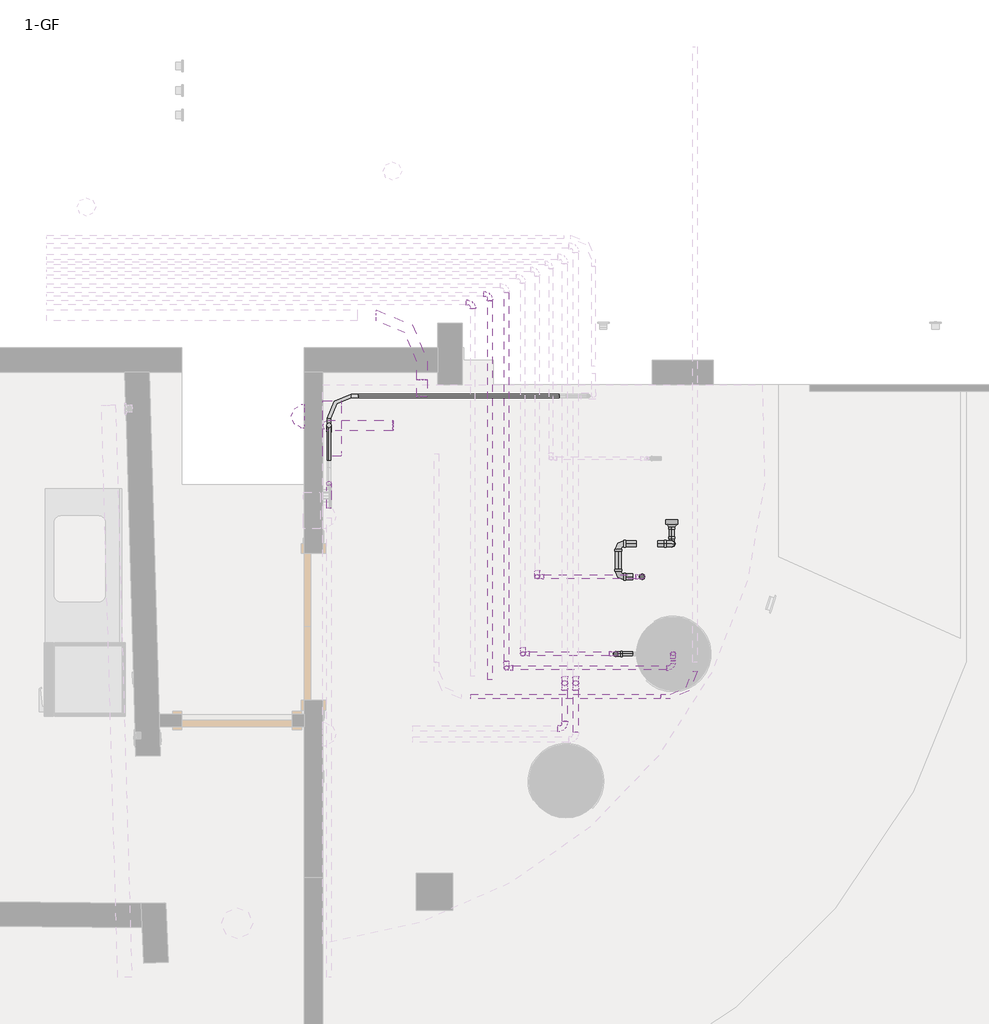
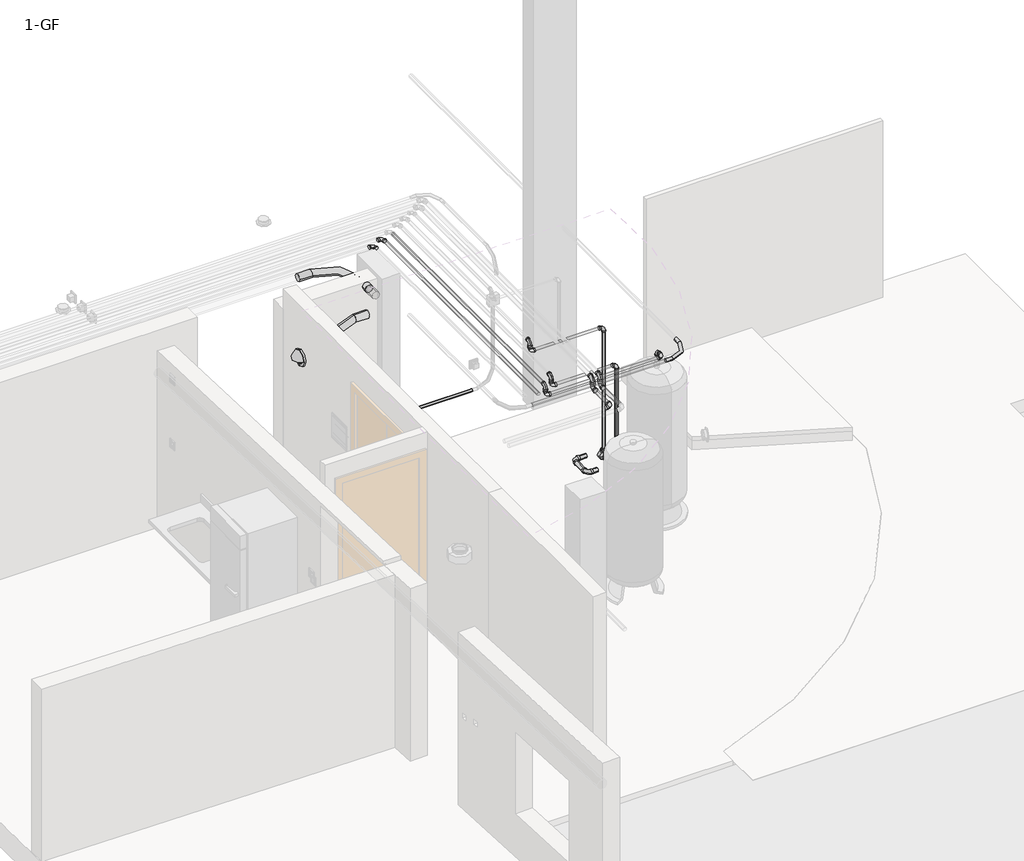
# One storey, part 4 of 5: 25 pipe fittings, 23 pipe segments, 7 cable carrier segments, 6 cable carrier fittings, 1 light fixture, 1 proxy.
"""IFC4 building model written with IfcOpenShell, lengths in millimetres."""

from ifc_helpers import new_model, si_unit, point, frame, frame_2d, origin, place, context, project, spatial, circle_curve, trimmed, segment, composite_curve, outline, extrude, transform, mapped, element, save
from components import proxy_1x18_3bd5b200, m_conduit_elbow_steel_standard_c9f8af3b, m_conduit_elbow_without_fittings_emt_standard_daa06945, m_conduit_elbow_without_fittings_emt_standard_0e6a189b, street_light_07_uk_wall_mounted_de2312fa, m_bend_pvc_sch_40_dwv_standard_48d77e49, m_bend_pvc_sch_40_dwv_standard_738aab8b, m_bend_pvc_sch_40_dwv_standard_b153bf5a, m_reducer_pvc_sch_40_dwv_standard_5cc089c8, m_reducer_pvc_sch_40_dwv_standard_5312b7c1, m_reducer_pvc_sch_40_dwv_standard_dc2cd0b0

model = new_model("IFC4")

# Units and contexts
model_context = context("Model", 3, world=origin())
ifc_project = project(units=[si_unit("LENGTHUNIT", "METRE", prefix="MILLI")], contexts=[model_context])

# Site, building, storey
site = spatial("IfcSite", under=ifc_project)
building = spatial("IfcBuilding", under=site)
storey = spatial("IfcBuildingStorey", under=building, Name="1-GF", Elevation=580.0)

# Proxy
placement = place(None, origin())
proxy_1x18_shape = proxy_1x18_3bd5b200(model_context)
element("IfcBuildingElementProxy", 1, Name="E_Distribution Panel_MEPcontent_Legrand_XL3 125_Wall Mounting_INT-EN : 1x18", ObjectType="E_Distribution Panel_MEPcontent_Legrand_XL3 125_Wall Mounting_INT-EN : 1x18", at=placement, inside=storey, context=model_context, shape_type="MappedRepresentation", body=[
    mapped(proxy_1x18_shape, transform((522.5234079, 2474.4560655, 1780.0), x_axis=(0.0, 1.0, 0.0), y_axis=(-1.0, 0.0, 0.0), z_axis=(0.0, 0.0, 1.0))),
])

# Cable carrier fittings
m_conduit_elbow_steel_standard_shape = m_conduit_elbow_steel_standard_c9f8af3b(model_context)
element("IfcCableCarrierFitting", 2, ObjectType="M_Conduit Elbow - Steel : Standard", at=placement, inside=storey, context=model_context, shape_type="MappedRepresentation", body=[
    mapped(m_conduit_elbow_steel_standard_shape, transform((572.5468157, 2740.6, 1145.0), x_axis=(-1.0, 0.0, 0.0), y_axis=(0.0, -1.0, 0.0), z_axis=(0.0, 0.0, 1.0))),
])
m_conduit_elbow_without_fittings_emt_standard_shape = m_conduit_elbow_without_fittings_emt_standard_daa06945(model_context)
element("IfcCableCarrierFitting", 3, ObjectType="M_Conduit Elbow - without Fittings - EMT : Standard", at=placement, inside=storey, context=model_context, shape_type="MappedRepresentation", body=[
    mapped(m_conduit_elbow_without_fittings_emt_standard_shape, transform((1332.5234079, 3399.4560655, 2703.05), x_axis=(0.0, 1.0, 0.0), y_axis=(-1.0, 0.0, 0.0), z_axis=(0.0, 0.0, 1.0))),
])
element("IfcCableCarrierFitting", 4, ObjectType="M_Conduit Elbow - without Fittings - EMT : Standard", at=placement, inside=storey, context=model_context, shape_type="MappedRepresentation", body=[
    mapped(m_conduit_elbow_without_fittings_emt_standard_shape, transform((567.5234079, 2499.2560655, 2703.05), x_axis=(-1.0, 0.0, 0.0), y_axis=(0.0, 0.0, -1.0), z_axis=(0.0, -1.0, 0.0))),
])
m_conduit_elbow_without_fittings_emt_standard_2_shape = m_conduit_elbow_without_fittings_emt_standard_0e6a189b(model_context)
element("IfcCableCarrierFitting", 5, ObjectType="M_Conduit Elbow - without Fittings - EMT : Standard", at=placement, inside=storey, context=model_context, shape_type="MappedRepresentation", body=[
    mapped(m_conduit_elbow_without_fittings_emt_standard_2_shape, transform((3562.5234079, 287.2055615, 2703.1), x_axis=(1.0, 0.0, 0.0), y_axis=(0.0, 1.0, 0.0), z_axis=(0.0, 0.0, 1.0))),
])
element("IfcCableCarrierFitting", 6, ObjectType="M_Conduit Elbow - without Fittings - EMT : Standard", at=placement, inside=storey, context=model_context, shape_type="MappedRepresentation", body=[
    mapped(m_conduit_elbow_without_fittings_emt_standard_2_shape, transform((574.1505251, 2500.617867, 510.825), x_axis=(0.0, 1.0, 0.0), y_axis=(0.0, 0.0, 1.0), z_axis=(1.0, 0.0, 0.0))),
])
element("IfcCableCarrierFitting", 7, ObjectType="M_Conduit Elbow - without Fittings - EMT : Standard", at=placement, inside=storey, context=model_context, shape_type="MappedRepresentation", body=[
    mapped(m_conduit_elbow_without_fittings_emt_standard_2_shape, transform((572.5468157, 2025.6, 2703.1), x_axis=(0.0, 0.0, 1.0), y_axis=(0.0, -1.0, 0.0), z_axis=(1.0, 0.0, 0.0))),
])

# Cable carrier segments
element("IfcCableCarrierSegment", 8, ObjectType="Electrical Metallic Tubing (EMT)", at=placement, inside=storey, context=model_context, shape_type="SweptSolid", body=[
    extrude(outline(composite_curve([segment(trimmed(circle_curve(frame_2d((2703.05, 1332.5234079)), 44.45), [point((2703.05, 1376.9734079))], [point((2747.5, 1332.5234079))], False, "CARTESIAN"), True, "CONTINUOUS"), segment(trimmed(circle_curve(frame_2d((2703.05, 1332.5234079)), 44.45), [point((2747.5, 1332.5234079))], [point((2703.05, 1288.0734079))], False, "CARTESIAN"), True, "CONTINUOUS"), segment(trimmed(circle_curve(frame_2d((2703.05, 1332.5234079)), 44.45), [point((2703.05, 1288.0734079))], [point((2658.6, 1332.5234079))], False, "CARTESIAN"), True, "CONTINUOUS"), segment(trimmed(circle_curve(frame_2d((2703.05, 1332.5234079)), 44.45), [point((2658.6, 1332.5234079))], [point((2703.05, 1376.9734079))], False, "CARTESIAN"), True, "CONTINUOUS")], self_intersect=False)), frame((0.0, 2733.2560655, 0.0), z_axis=(0.0, 1.0, 0.0), x_axis=(0.0, 0.0, 1.0)), (0.0, 0.0, 1.0), 139.15),
])
element("IfcCableCarrierSegment", 9, ObjectType="Electrical Metallic Tubing (EMT)", at=placement, inside=storey, context=model_context, shape_type="SweptSolid", body=[
    extrude(outline(composite_curve([segment(trimmed(circle_curve(frame_2d((2499.2560655, 2703.05)), 44.45), [point((2543.7060655, 2703.05))], [point((2499.2560655, 2658.6))], False, "CARTESIAN"), True, "CONTINUOUS"), segment(trimmed(circle_curve(frame_2d((2499.2560655, 2703.05)), 44.45), [point((2499.2560655, 2658.6))], [point((2454.8060655, 2703.05))], False, "CARTESIAN"), True, "CONTINUOUS"), segment(trimmed(circle_curve(frame_2d((2499.2560655, 2703.05)), 44.45), [point((2454.8060655, 2703.05))], [point((2499.2560655, 2747.5))], False, "CARTESIAN"), True, "CONTINUOUS"), segment(trimmed(circle_curve(frame_2d((2499.2560655, 2703.05)), 44.45), [point((2499.2560655, 2747.5))], [point((2543.7060655, 2703.05))], False, "CARTESIAN"), True, "CONTINUOUS")], self_intersect=False)), frame((1094.5734079, 0.0, 0.0), z_axis=(1.0, 0.0, 0.0), x_axis=(0.0, 1.0, 0.0)), (0.0, 0.0, 1.0), 3.95),
])
element("IfcCableCarrierSegment", 10, ObjectType="Electrical Metallic Tubing (EMT)", at=placement, inside=storey, context=model_context, shape_type="SweptSolid", body=[
    extrude(outline(composite_curve([segment(trimmed(circle_curve(frame_2d((287.2055615, 2703.1)), 19.175), [point((268.0305615, 2703.1))], [point((287.2055615, 2722.275))], False, "CARTESIAN"), True, "CONTINUOUS"), segment(trimmed(circle_curve(frame_2d((287.2055615, 2703.1)), 19.175), [point((287.2055615, 2722.275))], [point((306.3805615, 2703.1))], False, "CARTESIAN"), True, "CONTINUOUS"), segment(trimmed(circle_curve(frame_2d((287.2055615, 2703.1)), 19.175), [point((306.3805615, 2703.1))], [point((287.2055615, 2683.925))], False, "CARTESIAN"), True, "CONTINUOUS"), segment(trimmed(circle_curve(frame_2d((287.2055615, 2703.1)), 19.175), [point((287.2055615, 2683.925))], [point((268.0305615, 2703.1))], False, "CARTESIAN"), True, "CONTINUOUS")], self_intersect=False)), frame((1730.5197451, 0.0, 0.0), z_axis=(1.0, 0.0, 0.0), x_axis=(0.0, 1.0, 0.0)), (0.0, 0.0, 1.0), 1552.4736628),
])
element("IfcCableCarrierSegment", 11, ObjectType="Electrical Metallic Tubing (EMT)", at=placement, inside=storey, context=model_context, shape_type="SweptSolid", body=[
    extrude(outline(composite_curve([segment(trimmed(circle_curve(frame_2d((574.1505251, 2500.617867)), 19.175), [point((554.9755251, 2500.617867))], [point((574.1505251, 2519.792867))], False, "CARTESIAN"), True, "CONTINUOUS"), segment(trimmed(circle_curve(frame_2d((574.1505251, 2500.617867)), 19.175), [point((574.1505251, 2519.792867))], [point((593.3255251, 2500.617867))], False, "CARTESIAN"), True, "CONTINUOUS"), segment(trimmed(circle_curve(frame_2d((574.1505251, 2500.617867)), 19.175), [point((593.3255251, 2500.617867))], [point((574.1505251, 2481.442867))], False, "CARTESIAN"), True, "CONTINUOUS"), segment(trimmed(circle_curve(frame_2d((574.1505251, 2500.617867)), 19.175), [point((574.1505251, 2481.442867))], [point((554.9755251, 2500.617867))], False, "CARTESIAN"), True, "CONTINUOUS")], self_intersect=False)), frame((0.0, 0.0, 790.355), z_axis=(0.0, 0.0, 1.0), x_axis=(1.0, 0.0, 0.0)), (0.0, 0.0, 1.0), 739.645),
])
element("IfcCableCarrierSegment", 12, ObjectType="Electrical Metallic Tubing (EMT)", at=placement, inside=storey, context=model_context, shape_type="SweptSolid", body=[
    extrude(outline(composite_curve([segment(trimmed(circle_curve(frame_2d((572.5468157, 2025.6)), 19.175), [point((553.3718157, 2025.6))], [point((572.5468157, 2044.775))], False, "CARTESIAN"), True, "CONTINUOUS"), segment(trimmed(circle_curve(frame_2d((572.5468157, 2025.6)), 19.175), [point((572.5468157, 2044.775))], [point((591.7218157, 2025.6))], False, "CARTESIAN"), True, "CONTINUOUS"), segment(trimmed(circle_curve(frame_2d((572.5468157, 2025.6)), 19.175), [point((591.7218157, 2025.6))], [point((572.5468157, 2006.425))], False, "CARTESIAN"), True, "CONTINUOUS"), segment(trimmed(circle_curve(frame_2d((572.5468157, 2025.6)), 19.175), [point((572.5468157, 2006.425))], [point((553.3718157, 2025.6))], False, "CARTESIAN"), True, "CONTINUOUS")], self_intersect=False)), frame((0.0, 0.0, 2030.0), z_axis=(0.0, 0.0, 1.0), x_axis=(1.0, 0.0, 0.0)), (0.0, 0.0, 1.0), 393.57),
])
element("IfcCableCarrierSegment", 13, ObjectType="Low Current", at=placement, inside=storey, context=model_context, shape_type="SweptSolid", body=[
    extrude(outline(composite_curve([segment(trimmed(circle_curve(frame_2d((1145.0, 572.5468157)), 14.77), [point((1145.0, 587.3168157))], [point((1159.77, 572.5468157))], False, "CARTESIAN"), True, "CONTINUOUS"), segment(trimmed(circle_curve(frame_2d((1145.0, 572.5468157)), 14.77), [point((1159.77, 572.5468157))], [point((1145.0, 557.7768157))], False, "CARTESIAN"), True, "CONTINUOUS"), segment(trimmed(circle_curve(frame_2d((1145.0, 572.5468157)), 14.77), [point((1145.0, 557.7768157))], [point((1130.23, 572.5468157))], False, "CARTESIAN"), True, "CONTINUOUS"), segment(trimmed(circle_curve(frame_2d((1145.0, 572.5468157)), 14.77), [point((1130.23, 572.5468157))], [point((1145.0, 587.3168157))], False, "CARTESIAN"), True, "CONTINUOUS")], self_intersect=False)), frame((0.0, 2211.08, 0.0), z_axis=(0.0, 1.0, 0.0), x_axis=(0.0, 0.0, 1.0)), (0.0, 0.0, 1.0), 288.22),
])
element("IfcCableCarrierSegment", 14, ObjectType="Low Current", at=placement, inside=storey, context=model_context, shape_type="SweptSolid", body=[
    extrude(outline(composite_curve([segment(trimmed(circle_curve(frame_2d((2740.6, 1145.0)), 14.77), [point((2755.37, 1145.0))], [point((2740.6, 1130.23))], False, "CARTESIAN"), True, "CONTINUOUS"), segment(trimmed(circle_curve(frame_2d((2740.6, 1145.0)), 14.77), [point((2740.6, 1130.23))], [point((2725.83, 1145.0))], False, "CARTESIAN"), True, "CONTINUOUS"), segment(trimmed(circle_curve(frame_2d((2740.6, 1145.0)), 14.77), [point((2725.83, 1145.0))], [point((2740.6, 1159.77))], False, "CARTESIAN"), True, "CONTINUOUS"), segment(trimmed(circle_curve(frame_2d((2740.6, 1145.0)), 14.77), [point((2740.6, 1159.77))], [point((2755.37, 1145.0))], False, "CARTESIAN"), True, "CONTINUOUS")], self_intersect=False)), frame((813.8468157, 0.0, 0.0), z_axis=(1.0, 0.0, 0.0), x_axis=(0.0, 1.0, 0.0)), (0.0, 0.0, 1.0), 1637.3531843),
])

# Light fixture
street_light_07_uk_wall_mounted_shape = street_light_07_uk_wall_mounted_de2312fa(model_context)
element("IfcLightFixture", 15, ObjectType="Street Light 07 (UK) : Wall Mounted", at=placement, inside=storey, context=model_context, shape_type="MappedRepresentation", body=[
    mapped(street_light_07_uk_wall_mounted_shape, transform((447.5234079, 2449.4560655, 101.3392083), x_axis=(0.0, 1.0, 0.0), y_axis=(-1.0, 0.0, 0.0), z_axis=(0.0, 0.0, 1.0))),
])

# Pipe fittings
m_bend_pvc_sch_40_dwv_standard_shape = m_bend_pvc_sch_40_dwv_standard_48d77e49(model_context)
element("IfcPipeFitting", 16, ObjectType="M_Bend - PVC - Sch 40 - DWV : Standard", at=placement, inside=storey, context=model_context, shape_type="MappedRepresentation", body=[
    mapped(m_bend_pvc_sch_40_dwv_standard_shape, transform((3372.5234079, 1534.2396194, 655.0), x_axis=(0.0, -1.0, 0.0), y_axis=(0.0, 0.0, 1.0), z_axis=(-1.0, 0.0, 0.0))),
])
element("IfcPipeFitting", 17, ObjectType="M_Bend - PVC - Sch 40 - DWV : Standard", at=placement, inside=storey, context=model_context, shape_type="MappedRepresentation", body=[
    mapped(m_bend_pvc_sch_40_dwv_standard_shape, transform((2498.0267351, 395.198704, 2700.0), x_axis=(0.0, -1.0, 0.0), y_axis=(0.0, 0.0, -1.0), z_axis=(1.0, 0.0, 0.0))),
])
element("IfcPipeFitting", 18, ObjectType="M_Bend - PVC - Sch 40 - DWV : Standard", at=placement, inside=storey, context=model_context, shape_type="MappedRepresentation", body=[
    mapped(m_bend_pvc_sch_40_dwv_standard_shape, transform((2498.0267351, 25.4176655, 2580.0), x_axis=(1.0, 0.0, 0.0), y_axis=(0.0, 1.0, 0.0), z_axis=(0.0, 0.0, 1.0))),
])
element("IfcPipeFitting", 19, ObjectType="M_Bend - PVC - Sch 40 - DWV : Standard", at=placement, inside=storey, context=model_context, shape_type="MappedRepresentation", body=[
    mapped(m_bend_pvc_sch_40_dwv_standard_shape, transform((2498.0267351, 395.198704, 2580.0), x_axis=(0.0, 0.0, -1.0), y_axis=(0.0, -1.0, 0.0), z_axis=(-1.0, 0.0, 0.0))),
])
element("IfcPipeFitting", 20, ObjectType="M_Bend - PVC - Sch 40 - DWV : Standard", at=placement, inside=storey, context=model_context, shape_type="MappedRepresentation", body=[
    mapped(m_bend_pvc_sch_40_dwv_standard_shape, transform((2587.5267351, 395.198704, 2700.0), x_axis=(0.0, -1.0, 0.0), y_axis=(0.0, 0.0, -1.0), z_axis=(1.0, 0.0, 0.0))),
])
element("IfcPipeFitting", 21, ObjectType="M_Bend - PVC - Sch 40 - DWV : Standard", at=placement, inside=storey, context=model_context, shape_type="MappedRepresentation", body=[
    mapped(m_bend_pvc_sch_40_dwv_standard_shape, transform((2587.5267351, 395.198704, 2580.0), x_axis=(0.0, 0.0, -1.0), y_axis=(0.0, -1.0, 0.0), z_axis=(-1.0, 0.0, 0.0))),
])
m_bend_pvc_sch_40_dwv_standard_2_shape = m_bend_pvc_sch_40_dwv_standard_738aab8b(model_context)
element("IfcPipeFitting", 22, ObjectType="M_Bend - PVC - Sch 40 - DWV : Standard", at=placement, inside=storey, context=model_context, shape_type="MappedRepresentation", body=[
    mapped(m_bend_pvc_sch_40_dwv_standard_2_shape, transform((2934.2388435, 1264.2396194, 852.0), x_axis=(0.0, -1.0, 0.0), y_axis=(1.0, 0.0, 0.0), z_axis=(0.0, 0.0, 1.0))),
])
element("IfcPipeFitting", 23, ObjectType="M_Bend - PVC - Sch 40 - DWV : Standard", at=placement, inside=storey, context=model_context, shape_type="MappedRepresentation", body=[
    mapped(m_bend_pvc_sch_40_dwv_standard_2_shape, transform((2934.2388435, 1534.2396194, 852.0), x_axis=(-1.0, 0.0, 0.0), y_axis=(0.0, -1.0, 0.0), z_axis=(0.0, 0.0, 1.0))),
])
element("IfcPipeFitting", 24, ObjectType="M_Bend - PVC - Sch 40 - DWV : Standard", at=placement, inside=storey, context=model_context, shape_type="MappedRepresentation", body=[
    mapped(m_bend_pvc_sch_40_dwv_standard_2_shape, transform((3372.5234079, 1534.2396194, 852.0), x_axis=(0.0, 0.0, 1.0), y_axis=(-1.0, 0.0, 0.0), z_axis=(0.0, -1.0, 0.0))),
])
m_bend_pvc_sch_40_dwv_standard_3_shape = m_bend_pvc_sch_40_dwv_standard_b153bf5a(model_context)
element("IfcPipeFitting", 25, ObjectType="M_Bend - PVC - Sch 40 - DWV : Standard", at=placement, inside=storey, context=model_context, shape_type="MappedRepresentation", body=[
    mapped(m_bend_pvc_sch_40_dwv_standard_3_shape, transform((3128.8672474, 1264.2396194, 2580.0), x_axis=(1.0, 0.0, 0.0), y_axis=(0.0, 0.0, -1.0), z_axis=(0.0, 1.0, 0.0))),
])
element("IfcPipeFitting", 26, ObjectType="M_Bend - PVC - Sch 40 - DWV : Standard", at=placement, inside=storey, context=model_context, shape_type="MappedRepresentation", body=[
    mapped(m_bend_pvc_sch_40_dwv_standard_3_shape, transform((3382.5234079, 634.4560655, 2580.0), x_axis=(0.0, 0.0, 1.0), y_axis=(0.0, -1.0, 0.0), z_axis=(1.0, 0.0, 0.0))),
])
element("IfcPipeFitting", 27, ObjectType="M_Bend - PVC - Sch 40 - DWV : Standard", at=placement, inside=storey, context=model_context, shape_type="MappedRepresentation", body=[
    mapped(m_bend_pvc_sch_40_dwv_standard_3_shape, transform((3382.5234079, 519.4560655, 2580.0), x_axis=(1.0, 0.0, 0.0), y_axis=(0.0, 1.0, 0.0), z_axis=(0.0, 0.0, 1.0))),
])
element("IfcPipeFitting", 28, ObjectType="M_Bend - PVC - Sch 40 - DWV : Standard", at=placement, inside=storey, context=model_context, shape_type="MappedRepresentation", body=[
    mapped(m_bend_pvc_sch_40_dwv_standard_3_shape, transform((2914.3387142, 634.4560655, 908.663576), x_axis=(-1.0, 0.0, 0.0), y_axis=(0.0, 0.0, 1.0), z_axis=(0.0, 1.0, 0.0))),
])
element("IfcPipeFitting", 29, ObjectType="M_Bend - PVC - Sch 40 - DWV : Standard", at=placement, inside=storey, context=model_context, shape_type="MappedRepresentation", body=[
    mapped(m_bend_pvc_sch_40_dwv_standard_3_shape, transform((2914.3387142, 634.4560655, 2580.0), x_axis=(0.0, 0.0, 1.0), y_axis=(-1.0, 0.0, 0.0), z_axis=(0.0, -1.0, 0.0))),
])
element("IfcPipeFitting", 30, ObjectType="M_Bend - PVC - Sch 40 - DWV : Standard", at=placement, inside=storey, context=model_context, shape_type="MappedRepresentation", body=[
    mapped(m_bend_pvc_sch_40_dwv_standard_3_shape, transform((1887.8774899, 3571.8684602, 2700.0), x_axis=(0.0, 1.0, 0.0), y_axis=(-1.0, 0.0, 0.0), z_axis=(0.0, 0.0, 1.0))),
])
element("IfcPipeFitting", 31, ObjectType="M_Bend - PVC - Sch 40 - DWV : Standard", at=placement, inside=storey, context=model_context, shape_type="MappedRepresentation", body=[
    mapped(m_bend_pvc_sch_40_dwv_standard_3_shape, transform((1747.8774899, 3503.2484453, 2700.0), x_axis=(0.0, 1.0, 0.0), y_axis=(-1.0, 0.0, 0.0), z_axis=(0.0, 0.0, 1.0))),
])
element("IfcPipeFitting", 32, ObjectType="M_Bend - PVC - Sch 40 - DWV : Standard", at=placement, inside=storey, context=model_context, shape_type="MappedRepresentation", body=[
    mapped(m_bend_pvc_sch_40_dwv_standard_3_shape, transform((2272.5234079, 1264.2396194, 2700.0), x_axis=(0.0, -1.0, 0.0), y_axis=(0.0, 0.0, -1.0), z_axis=(1.0, 0.0, 0.0))),
])
element("IfcPipeFitting", 33, ObjectType="M_Bend - PVC - Sch 40 - DWV : Standard", at=placement, inside=storey, context=model_context, shape_type="MappedRepresentation", body=[
    mapped(m_bend_pvc_sch_40_dwv_standard_3_shape, transform((2272.5234079, 1264.2396194, 2580.0), x_axis=(-1.0, 0.0, 0.0), y_axis=(0.0, 0.0, 1.0), z_axis=(0.0, 1.0, 0.0))),
])
element("IfcPipeFitting", 34, ObjectType="M_Bend - PVC - Sch 40 - DWV : Standard", at=placement, inside=storey, context=model_context, shape_type="MappedRepresentation", body=[
    mapped(m_bend_pvc_sch_40_dwv_standard_3_shape, transform((2156.0345951, 634.4560655, 2700.0), x_axis=(0.0, -1.0, 0.0), y_axis=(0.0, 0.0, -1.0), z_axis=(1.0, 0.0, 0.0))),
])
element("IfcPipeFitting", 35, ObjectType="M_Bend - PVC - Sch 40 - DWV : Standard", at=placement, inside=storey, context=model_context, shape_type="MappedRepresentation", body=[
    mapped(m_bend_pvc_sch_40_dwv_standard_3_shape, transform((2156.0345951, 634.4560655, 2580.0), x_axis=(-1.0, 0.0, 0.0), y_axis=(0.0, 0.0, 1.0), z_axis=(0.0, 1.0, 0.0))),
])
element("IfcPipeFitting", 36, ObjectType="M_Bend - PVC - Sch 40 - DWV : Standard", at=placement, inside=storey, context=model_context, shape_type="MappedRepresentation", body=[
    mapped(m_bend_pvc_sch_40_dwv_standard_3_shape, transform((2022.1726324, 519.4560655, 2700.0), x_axis=(0.0, -1.0, 0.0), y_axis=(0.0, 0.0, -1.0), z_axis=(1.0, 0.0, 0.0))),
])
element("IfcPipeFitting", 37, ObjectType="M_Bend - PVC - Sch 40 - DWV : Standard", at=placement, inside=storey, context=model_context, shape_type="MappedRepresentation", body=[
    mapped(m_bend_pvc_sch_40_dwv_standard_3_shape, transform((2022.1726324, 519.4560655, 2580.0), x_axis=(-1.0, 0.0, 0.0), y_axis=(0.0, 0.0, 1.0), z_axis=(0.0, 1.0, 0.0))),
])
m_reducer_pvc_sch_40_dwv_standard_shape = m_reducer_pvc_sch_40_dwv_standard_5cc089c8(model_context)
element("IfcPipeFitting", 38, ObjectType="M_Reducer - PVC - Sch 40 - DWV : Standard", at=placement, inside=storey, context=model_context, shape_type="MappedRepresentation", body=[
    mapped(m_reducer_pvc_sch_40_dwv_standard_shape, transform((3372.5234079, 1728.7178975, 655.0), x_axis=(0.0, -1.0, 0.0), y_axis=(1.0, 0.0, 0.0), z_axis=(0.0, 0.0, 1.0))),
])
m_reducer_pvc_sch_40_dwv_standard_2_shape = m_reducer_pvc_sch_40_dwv_standard_5312b7c1(model_context)
element("IfcPipeFitting", 39, ObjectType="M_Reducer - PVC - Sch 40 - DWV : Standard", at=placement, inside=storey, context=model_context, shape_type="MappedRepresentation", body=[
    mapped(m_reducer_pvc_sch_40_dwv_standard_2_shape, transform((3372.5234079, 1534.2396194, 712.15), x_axis=(0.0, 0.0, 1.0), y_axis=(0.0, -1.0, 0.0), z_axis=(1.0, 0.0, 0.0))),
])
m_reducer_pvc_sch_40_dwv_standard_3_shape = m_reducer_pvc_sch_40_dwv_standard_dc2cd0b0(model_context)
element("IfcPipeFitting", 40, ObjectType="M_Reducer - PVC - Sch 40 - DWV : Standard", at=placement, inside=storey, context=model_context, shape_type="MappedRepresentation", body=[
    mapped(m_reducer_pvc_sch_40_dwv_standard_3_shape, transform((3128.8672474, 1264.2396194, 1063.0), x_axis=(0.0, 0.0, 1.0), y_axis=(1.0, 0.0, 0.0), z_axis=(0.0, 1.0, 0.0))),
])

# Pipe segments
element("IfcPipeSegment", 41, ObjectType="PVC - DWV", at=placement, inside=storey, context=model_context, shape_type="SweptSolid", body=[
    extrude(outline(composite_curve([segment(trimmed(circle_curve(frame_2d((2700.0, 2022.1726324)), 16.7005), [point((2700.0, 2005.4721324))], [point((2683.2995, 2022.1726324))], False, "CARTESIAN"), True, "CONTINUOUS"), segment(trimmed(circle_curve(frame_2d((2700.0, 2022.1726324)), 16.7005), [point((2683.2995, 2022.1726324))], [point((2700.0, 2038.8731324))], False, "CARTESIAN"), True, "CONTINUOUS"), segment(trimmed(circle_curve(frame_2d((2700.0, 2022.1726324)), 16.7005), [point((2700.0, 2038.8731324))], [point((2716.7005, 2022.1726324))], False, "CARTESIAN"), True, "CONTINUOUS"), segment(trimmed(circle_curve(frame_2d((2700.0, 2022.1726324)), 16.7005), [point((2716.7005, 2022.1726324))], [point((2700.0, 2005.4721324))], False, "CARTESIAN"), True, "CONTINUOUS")], self_intersect=False)), frame((0.0, 572.070128, 0.0), z_axis=(0.0, 1.0, 0.0), x_axis=(0.0, 0.0, 1.0)), (0.0, 0.0, 1.0), 3014.771875),
])
element("IfcPipeSegment", 42, ObjectType="PVC - DWV", at=placement, inside=storey, context=model_context, shape_type="SweptSolid", body=[
    extrude(outline(composite_curve([segment(trimmed(circle_curve(frame_2d((655.0, 3372.5234079)), 21.082), [point((655.0, 3351.4414079))], [point((633.918, 3372.5234079))], False, "CARTESIAN"), True, "CONTINUOUS"), segment(trimmed(circle_curve(frame_2d((655.0, 3372.5234079)), 21.082), [point((633.918, 3372.5234079))], [point((655.0, 3393.6054079))], False, "CARTESIAN"), True, "CONTINUOUS"), segment(trimmed(circle_curve(frame_2d((655.0, 3372.5234079)), 21.082), [point((655.0, 3393.6054079))], [point((676.082, 3372.5234079))], False, "CARTESIAN"), True, "CONTINUOUS"), segment(trimmed(circle_curve(frame_2d((655.0, 3372.5234079)), 21.082), [point((676.082, 3372.5234079))], [point((655.0, 3351.4414079))], False, "CARTESIAN"), True, "CONTINUOUS")], self_intersect=False)), frame((0.0, 1591.3896194, 0.0), z_axis=(0.0, 1.0, 0.0), x_axis=(0.0, 0.0, 1.0)), (0.0, 0.0, 1.0), 61.4221844),
])
element("IfcPipeSegment", 43, ObjectType="PVC - DWV", at=placement, inside=storey, context=model_context, shape_type="SweptSolid", body=[
    extrude(outline(composite_curve([segment(trimmed(circle_curve(frame_2d((1264.2396194, 852.0)), 24.13), [point((1288.3696194, 852.0))], [point((1264.2396194, 827.87))], False, "CARTESIAN"), True, "CONTINUOUS"), segment(trimmed(circle_curve(frame_2d((1264.2396194, 852.0)), 24.13), [point((1264.2396194, 827.87))], [point((1240.1096194, 852.0))], False, "CARTESIAN"), True, "CONTINUOUS"), segment(trimmed(circle_curve(frame_2d((1264.2396194, 852.0)), 24.13), [point((1240.1096194, 852.0))], [point((1264.2396194, 876.13))], False, "CARTESIAN"), True, "CONTINUOUS"), segment(trimmed(circle_curve(frame_2d((1264.2396194, 852.0)), 24.13), [point((1264.2396194, 876.13))], [point((1288.3696194, 852.0))], False, "CARTESIAN"), True, "CONTINUOUS")], self_intersect=False)), frame((2996.1386435, 0.0, 0.0), z_axis=(1.0, 0.0, 0.0), x_axis=(0.0, 1.0, 0.0)), (0.0, 0.0, 1.0), 56.7286039),
])
element("IfcPipeSegment", 44, ObjectType="PVC - DWV", at=placement, inside=storey, context=model_context, shape_type="SweptSolid", body=[
    extrude(outline(composite_curve([segment(trimmed(circle_curve(frame_2d((3128.8672474, 1264.2396194)), 16.7005), [point((3145.5677474, 1264.2396194))], [point((3128.8672474, 1247.5391194))], False, "CARTESIAN"), True, "CONTINUOUS"), segment(trimmed(circle_curve(frame_2d((3128.8672474, 1264.2396194)), 16.7005), [point((3128.8672474, 1247.5391194))], [point((3112.1667474, 1264.2396194))], False, "CARTESIAN"), True, "CONTINUOUS"), segment(trimmed(circle_curve(frame_2d((3128.8672474, 1264.2396194)), 16.7005), [point((3112.1667474, 1264.2396194))], [point((3128.8672474, 1280.9401194))], False, "CARTESIAN"), True, "CONTINUOUS"), segment(trimmed(circle_curve(frame_2d((3128.8672474, 1264.2396194)), 16.7005), [point((3128.8672474, 1280.9401194))], [point((3145.5677474, 1264.2396194))], False, "CARTESIAN"), True, "CONTINUOUS")], self_intersect=False)), frame((0.0, 0.0, 1095.2460938), z_axis=(0.0, 0.0, 1.0), x_axis=(1.0, 0.0, 0.0)), (0.0, 0.0, 1.0), 1432.1398437),
])
element("IfcPipeSegment", 45, ObjectType="PVC - DWV", at=placement, inside=storey, context=model_context, shape_type="SweptSolid", body=[
    extrude(outline(composite_curve([segment(trimmed(circle_curve(frame_2d((852.0, 2934.2388435)), 24.13), [point((852.0, 2958.3688435))], [point((876.13, 2934.2388435))], False, "CARTESIAN"), True, "CONTINUOUS"), segment(trimmed(circle_curve(frame_2d((852.0, 2934.2388435)), 24.13), [point((876.13, 2934.2388435))], [point((852.0, 2910.1088435))], False, "CARTESIAN"), True, "CONTINUOUS"), segment(trimmed(circle_curve(frame_2d((852.0, 2934.2388435)), 24.13), [point((852.0, 2910.1088435))], [point((827.87, 2934.2388435))], False, "CARTESIAN"), True, "CONTINUOUS"), segment(trimmed(circle_curve(frame_2d((852.0, 2934.2388435)), 24.13), [point((827.87, 2934.2388435))], [point((852.0, 2958.3688435))], False, "CARTESIAN"), True, "CONTINUOUS")], self_intersect=False)), frame((0.0, 1326.1394194, 0.0), z_axis=(0.0, 1.0, 0.0), x_axis=(0.0, 0.0, 1.0)), (0.0, 0.0, 1.0), 146.2004),
])
element("IfcPipeSegment", 46, ObjectType="PVC - DWV", at=placement, inside=storey, context=model_context, shape_type="SweptSolid", body=[
    extrude(outline(composite_curve([segment(trimmed(circle_curve(frame_2d((1534.2396194, 852.0)), 24.13), [point((1510.1096194, 852.0))], [point((1534.2396194, 876.13))], False, "CARTESIAN"), True, "CONTINUOUS"), segment(trimmed(circle_curve(frame_2d((1534.2396194, 852.0)), 24.13), [point((1534.2396194, 876.13))], [point((1558.3696194, 852.0))], False, "CARTESIAN"), True, "CONTINUOUS"), segment(trimmed(circle_curve(frame_2d((1534.2396194, 852.0)), 24.13), [point((1558.3696194, 852.0))], [point((1534.2396194, 827.87))], False, "CARTESIAN"), True, "CONTINUOUS"), segment(trimmed(circle_curve(frame_2d((1534.2396194, 852.0)), 24.13), [point((1534.2396194, 827.87))], [point((1510.1096194, 852.0))], False, "CARTESIAN"), True, "CONTINUOUS")], self_intersect=False)), frame((3258.299132, 0.0, 0.0), z_axis=(1.0, 0.0, 0.0), x_axis=(0.0, 1.0, 0.0)), (0.0, 0.0, 1.0), 52.3244758),
])
element("IfcPipeSegment", 47, ObjectType="PVC - DWV", at=placement, inside=storey, context=model_context, shape_type="SweptSolid", body=[
    extrude(outline(composite_curve([segment(trimmed(circle_curve(frame_2d((3372.5234079, 1534.2396194)), 24.13), [point((3348.3934079, 1534.2396194))], [point((3372.5234079, 1558.3696194))], False, "CARTESIAN"), True, "CONTINUOUS"), segment(trimmed(circle_curve(frame_2d((3372.5234079, 1534.2396194)), 24.13), [point((3372.5234079, 1558.3696194))], [point((3396.6534079, 1534.2396194))], False, "CARTESIAN"), True, "CONTINUOUS"), segment(trimmed(circle_curve(frame_2d((3372.5234079, 1534.2396194)), 24.13), [point((3396.6534079, 1534.2396194))], [point((3372.5234079, 1510.1096194))], False, "CARTESIAN"), True, "CONTINUOUS"), segment(trimmed(circle_curve(frame_2d((3372.5234079, 1534.2396194)), 24.13), [point((3372.5234079, 1510.1096194))], [point((3348.3934079, 1534.2396194))], False, "CARTESIAN"), True, "CONTINUOUS")], self_intersect=False)), frame((0.0, 0.0, 754.8060938), z_axis=(0.0, 0.0, 1.0), x_axis=(1.0, 0.0, 0.0)), (0.0, 0.0, 1.0), 35.2941063),
])
element("IfcPipeSegment", 48, ObjectType="PVC - DWV", at=placement, inside=storey, context=model_context, shape_type="SweptSolid", body=[
    extrude(outline(composite_curve([segment(trimmed(circle_curve(frame_2d((1264.2396194, 2580.0)), 16.7005), [point((1280.9401194, 2580.0))], [point((1264.2396194, 2563.2995))], False, "CARTESIAN"), True, "CONTINUOUS"), segment(trimmed(circle_curve(frame_2d((1264.2396194, 2580.0)), 16.7005), [point((1264.2396194, 2563.2995))], [point((1247.5391194, 2580.0))], False, "CARTESIAN"), True, "CONTINUOUS"), segment(trimmed(circle_curve(frame_2d((1264.2396194, 2580.0)), 16.7005), [point((1247.5391194, 2580.0))], [point((1264.2396194, 2596.7005))], False, "CARTESIAN"), True, "CONTINUOUS"), segment(trimmed(circle_curve(frame_2d((1264.2396194, 2580.0)), 16.7005), [point((1264.2396194, 2596.7005))], [point((1280.9401194, 2580.0))], False, "CARTESIAN"), True, "CONTINUOUS")], self_intersect=False)), frame((2325.1374704, 0.0, 0.0), z_axis=(1.0, 0.0, 0.0), x_axis=(0.0, 1.0, 0.0)), (0.0, 0.0, 1.0), 751.1157145),
])
element("IfcPipeSegment", 49, ObjectType="PVC - DWV", at=placement, inside=storey, context=model_context, shape_type="SweptSolid", body=[
    extrude(outline(composite_curve([segment(trimmed(circle_curve(frame_2d((634.4560655, 908.663576)), 16.7005), [point((651.1565655, 908.663576))], [point((634.4560655, 891.963076))], False, "CARTESIAN"), True, "CONTINUOUS"), segment(trimmed(circle_curve(frame_2d((634.4560655, 908.663576)), 16.7005), [point((634.4560655, 891.963076))], [point((617.7555655, 908.663576))], False, "CARTESIAN"), True, "CONTINUOUS"), segment(trimmed(circle_curve(frame_2d((634.4560655, 908.663576)), 16.7005), [point((617.7555655, 908.663576))], [point((634.4560655, 925.364076))], False, "CARTESIAN"), True, "CONTINUOUS"), segment(trimmed(circle_curve(frame_2d((634.4560655, 908.663576)), 16.7005), [point((634.4560655, 925.364076))], [point((651.1565655, 908.663576))], False, "CARTESIAN"), True, "CONTINUOUS")], self_intersect=False)), frame((2966.9527767, 0.0, 0.0), z_axis=(1.0, 0.0, 0.0), x_axis=(0.0, 1.0, 0.0)), (0.0, 0.0, 1.0), 87.3859375),
])
element("IfcPipeSegment", 50, ObjectType="PVC - DWV", at=placement, inside=storey, context=model_context, shape_type="SweptSolid", body=[
    extrude(outline(composite_curve([segment(trimmed(circle_curve(frame_2d((519.4560655, 2580.0)), 16.7005), [point((536.1565655, 2580.0))], [point((519.4560655, 2563.2995))], False, "CARTESIAN"), True, "CONTINUOUS"), segment(trimmed(circle_curve(frame_2d((519.4560655, 2580.0)), 16.7005), [point((519.4560655, 2563.2995))], [point((502.7555655, 2580.0))], False, "CARTESIAN"), True, "CONTINUOUS"), segment(trimmed(circle_curve(frame_2d((519.4560655, 2580.0)), 16.7005), [point((502.7555655, 2580.0))], [point((519.4560655, 2596.7005))], False, "CARTESIAN"), True, "CONTINUOUS"), segment(trimmed(circle_curve(frame_2d((519.4560655, 2580.0)), 16.7005), [point((519.4560655, 2596.7005))], [point((536.1565655, 2580.0))], False, "CARTESIAN"), True, "CONTINUOUS")], self_intersect=False)), frame((2074.7866949, 0.0, 0.0), z_axis=(1.0, 0.0, 0.0), x_axis=(0.0, 1.0, 0.0)), (0.0, 0.0, 1.0), 1255.1226505),
])
element("IfcPipeSegment", 51, ObjectType="PVC - DWV", at=placement, inside=storey, context=model_context, shape_type="SweptSolid", body=[
    extrude(outline(composite_curve([segment(trimmed(circle_curve(frame_2d((3382.5234079, 634.4560655)), 16.7005), [point((3365.8229079, 634.4560655))], [point((3382.5234079, 651.1565655))], False, "CARTESIAN"), True, "CONTINUOUS"), segment(trimmed(circle_curve(frame_2d((3382.5234079, 634.4560655)), 16.7005), [point((3382.5234079, 651.1565655))], [point((3399.2239079, 634.4560655))], False, "CARTESIAN"), True, "CONTINUOUS"), segment(trimmed(circle_curve(frame_2d((3382.5234079, 634.4560655)), 16.7005), [point((3399.2239079, 634.4560655))], [point((3382.5234079, 617.7555655))], False, "CARTESIAN"), True, "CONTINUOUS"), segment(trimmed(circle_curve(frame_2d((3382.5234079, 634.4560655)), 16.7005), [point((3382.5234079, 617.7555655))], [point((3365.8229079, 634.4560655))], False, "CARTESIAN"), True, "CONTINUOUS")], self_intersect=False)), frame((0.0, 0.0, 2430.0), z_axis=(0.0, 0.0, 1.0), x_axis=(1.0, 0.0, 0.0)), (0.0, 0.0, 1.0), 97.3859375),
])
element("IfcPipeSegment", 52, ObjectType="PVC - DWV", at=placement, inside=storey, context=model_context, shape_type="SweptSolid", body=[
    extrude(outline(composite_curve([segment(trimmed(circle_curve(frame_2d((2580.0, 3382.5234079)), 16.7005), [point((2580.0, 3365.8229079))], [point((2563.2995, 3382.5234079))], False, "CARTESIAN"), True, "CONTINUOUS"), segment(trimmed(circle_curve(frame_2d((2580.0, 3382.5234079)), 16.7005), [point((2563.2995, 3382.5234079))], [point((2580.0, 3399.2239079))], False, "CARTESIAN"), True, "CONTINUOUS"), segment(trimmed(circle_curve(frame_2d((2580.0, 3382.5234079)), 16.7005), [point((2580.0, 3399.2239079))], [point((2596.7005, 3382.5234079))], False, "CARTESIAN"), True, "CONTINUOUS"), segment(trimmed(circle_curve(frame_2d((2580.0, 3382.5234079)), 16.7005), [point((2596.7005, 3382.5234079))], [point((2580.0, 3365.8229079))], False, "CARTESIAN"), True, "CONTINUOUS")], self_intersect=False)), frame((0.0, 572.070128, 0.0), z_axis=(0.0, 1.0, 0.0), x_axis=(0.0, 0.0, 1.0)), (0.0, 0.0, 1.0), 9.771875),
])
element("IfcPipeSegment", 53, ObjectType="PVC - DWV", at=placement, inside=storey, context=model_context, shape_type="SweptSolid", body=[
    extrude(outline(composite_curve([segment(trimmed(circle_curve(frame_2d((634.4560655, 2580.0)), 16.7005), [point((651.1565655, 2580.0))], [point((634.4560655, 2563.2995))], False, "CARTESIAN"), True, "CONTINUOUS"), segment(trimmed(circle_curve(frame_2d((634.4560655, 2580.0)), 16.7005), [point((634.4560655, 2563.2995))], [point((617.7555655, 2580.0))], False, "CARTESIAN"), True, "CONTINUOUS"), segment(trimmed(circle_curve(frame_2d((634.4560655, 2580.0)), 16.7005), [point((617.7555655, 2580.0))], [point((634.4560655, 2596.7005))], False, "CARTESIAN"), True, "CONTINUOUS"), segment(trimmed(circle_curve(frame_2d((634.4560655, 2580.0)), 16.7005), [point((634.4560655, 2596.7005))], [point((651.1565655, 2580.0))], False, "CARTESIAN"), True, "CONTINUOUS")], self_intersect=False)), frame((2208.6486576, 0.0, 0.0), z_axis=(1.0, 0.0, 0.0), x_axis=(0.0, 1.0, 0.0)), (0.0, 0.0, 1.0), 653.0759941),
])
element("IfcPipeSegment", 54, ObjectType="PVC - DWV", at=placement, inside=storey, context=model_context, shape_type="SweptSolid", body=[
    extrude(outline(composite_curve([segment(trimmed(circle_curve(frame_2d((2914.3387142, 634.4560655)), 16.7005), [point((2897.6382142, 634.4560655))], [point((2914.3387142, 651.1565655))], False, "CARTESIAN"), True, "CONTINUOUS"), segment(trimmed(circle_curve(frame_2d((2914.3387142, 634.4560655)), 16.7005), [point((2914.3387142, 651.1565655))], [point((2931.0392142, 634.4560655))], False, "CARTESIAN"), True, "CONTINUOUS"), segment(trimmed(circle_curve(frame_2d((2914.3387142, 634.4560655)), 16.7005), [point((2931.0392142, 634.4560655))], [point((2914.3387142, 617.7555655))], False, "CARTESIAN"), True, "CONTINUOUS"), segment(trimmed(circle_curve(frame_2d((2914.3387142, 634.4560655)), 16.7005), [point((2914.3387142, 617.7555655))], [point((2897.6382142, 634.4560655))], False, "CARTESIAN"), True, "CONTINUOUS")], self_intersect=False)), frame((0.0, 0.0, 961.2776385), z_axis=(0.0, 0.0, 1.0), x_axis=(1.0, 0.0, 0.0)), (0.0, 0.0, 1.0), 1566.108299),
])
element("IfcPipeSegment", 55, ObjectType="PVC - DWV", at=placement, inside=storey, context=model_context, shape_type="SweptSolid", body=[
    extrude(outline(composite_curve([segment(trimmed(circle_curve(frame_2d((1534.2396194, 852.0)), 24.13), [point((1510.1096194, 852.0))], [point((1534.2396194, 876.13))], False, "CARTESIAN"), True, "CONTINUOUS"), segment(trimmed(circle_curve(frame_2d((1534.2396194, 852.0)), 24.13), [point((1534.2396194, 876.13))], [point((1558.3696194, 852.0))], False, "CARTESIAN"), True, "CONTINUOUS"), segment(trimmed(circle_curve(frame_2d((1534.2396194, 852.0)), 24.13), [point((1558.3696194, 852.0))], [point((1534.2396194, 827.87))], False, "CARTESIAN"), True, "CONTINUOUS"), segment(trimmed(circle_curve(frame_2d((1534.2396194, 852.0)), 24.13), [point((1534.2396194, 827.87))], [point((1510.1096194, 852.0))], False, "CARTESIAN"), True, "CONTINUOUS")], self_intersect=False)), frame((2996.1386435, 0.0, 0.0), z_axis=(1.0, 0.0, 0.0), x_axis=(0.0, 1.0, 0.0)), (0.0, 0.0, 1.0), 84.1604886),
])
element("IfcPipeSegment", 56, ObjectType="PVC - DWV", at=placement, inside=storey, context=model_context, shape_type="SweptSolid", body=[
    extrude(outline(composite_curve([segment(trimmed(circle_curve(frame_2d((2700.0, 1887.8774899)), 16.7005), [point((2700.0, 1871.1769899))], [point((2683.2995, 1887.8774899))], False, "CARTESIAN"), True, "CONTINUOUS"), segment(trimmed(circle_curve(frame_2d((2700.0, 1887.8774899)), 16.7005), [point((2683.2995, 1887.8774899))], [point((2700.0, 1904.5779899))], False, "CARTESIAN"), True, "CONTINUOUS"), segment(trimmed(circle_curve(frame_2d((2700.0, 1887.8774899)), 16.7005), [point((2700.0, 1904.5779899))], [point((2716.7005, 1887.8774899))], False, "CARTESIAN"), True, "CONTINUOUS"), segment(trimmed(circle_curve(frame_2d((2700.0, 1887.8774899)), 16.7005), [point((2716.7005, 1887.8774899))], [point((2700.0, 1871.1769899))], False, "CARTESIAN"), True, "CONTINUOUS")], self_intersect=False)), frame((0.0, 421.8684602, 0.0), z_axis=(0.0, 1.0, 0.0), x_axis=(0.0, 0.0, 1.0)), (0.0, 0.0, 1.0), 3097.3859375),
])
element("IfcPipeSegment", 57, ObjectType="PVC - DWV", at=placement, inside=storey, context=model_context, shape_type="SweptSolid", body=[
    extrude(outline(composite_curve([segment(trimmed(circle_curve(frame_2d((2272.5234079, 1264.2396194)), 16.7005), [point((2289.2239079, 1264.2396194))], [point((2272.5234079, 1247.5391194))], False, "CARTESIAN"), True, "CONTINUOUS"), segment(trimmed(circle_curve(frame_2d((2272.5234079, 1264.2396194)), 16.7005), [point((2272.5234079, 1247.5391194))], [point((2255.8229079, 1264.2396194))], False, "CARTESIAN"), True, "CONTINUOUS"), segment(trimmed(circle_curve(frame_2d((2272.5234079, 1264.2396194)), 16.7005), [point((2255.8229079, 1264.2396194))], [point((2272.5234079, 1280.9401194))], False, "CARTESIAN"), True, "CONTINUOUS"), segment(trimmed(circle_curve(frame_2d((2272.5234079, 1264.2396194)), 16.7005), [point((2272.5234079, 1280.9401194))], [point((2289.2239079, 1264.2396194))], False, "CARTESIAN"), True, "CONTINUOUS")], self_intersect=False)), frame((0.0, 0.0, 2632.6140625), z_axis=(0.0, 0.0, 1.0), x_axis=(1.0, 0.0, 0.0)), (0.0, 0.0, 1.0), 14.771875),
])
element("IfcPipeSegment", 58, ObjectType="PVC - DWV", at=placement, inside=storey, context=model_context, shape_type="SweptSolid", body=[
    extrude(outline(composite_curve([segment(trimmed(circle_curve(frame_2d((2156.0345951, 634.4560655)), 16.7005), [point((2172.7350951, 634.4560655))], [point((2156.0345951, 617.7555655))], False, "CARTESIAN"), True, "CONTINUOUS"), segment(trimmed(circle_curve(frame_2d((2156.0345951, 634.4560655)), 16.7005), [point((2156.0345951, 617.7555655))], [point((2139.3340951, 634.4560655))], False, "CARTESIAN"), True, "CONTINUOUS"), segment(trimmed(circle_curve(frame_2d((2156.0345951, 634.4560655)), 16.7005), [point((2139.3340951, 634.4560655))], [point((2156.0345951, 651.1565655))], False, "CARTESIAN"), True, "CONTINUOUS"), segment(trimmed(circle_curve(frame_2d((2156.0345951, 634.4560655)), 16.7005), [point((2156.0345951, 651.1565655))], [point((2172.7350951, 634.4560655))], False, "CARTESIAN"), True, "CONTINUOUS")], self_intersect=False)), frame((0.0, 0.0, 2632.6140625), z_axis=(0.0, 0.0, 1.0), x_axis=(1.0, 0.0, 0.0)), (0.0, 0.0, 1.0), 14.771875),
])
element("IfcPipeSegment", 59, ObjectType="PVC - DWV", at=placement, inside=storey, context=model_context, shape_type="SweptSolid", body=[
    extrude(outline(composite_curve([segment(trimmed(circle_curve(frame_2d((2022.1726324, 519.4560655)), 16.7005), [point((2038.8731324, 519.4560655))], [point((2022.1726324, 502.7555655))], False, "CARTESIAN"), True, "CONTINUOUS"), segment(trimmed(circle_curve(frame_2d((2022.1726324, 519.4560655)), 16.7005), [point((2022.1726324, 502.7555655))], [point((2005.4721324, 519.4560655))], False, "CARTESIAN"), True, "CONTINUOUS"), segment(trimmed(circle_curve(frame_2d((2022.1726324, 519.4560655)), 16.7005), [point((2005.4721324, 519.4560655))], [point((2022.1726324, 536.1565655))], False, "CARTESIAN"), True, "CONTINUOUS"), segment(trimmed(circle_curve(frame_2d((2022.1726324, 519.4560655)), 16.7005), [point((2022.1726324, 536.1565655))], [point((2038.8731324, 519.4560655))], False, "CARTESIAN"), True, "CONTINUOUS")], self_intersect=False)), frame((0.0, 0.0, 2632.6140625), z_axis=(0.0, 0.0, 1.0), x_axis=(1.0, 0.0, 0.0)), (0.0, 0.0, 1.0), 14.771875),
])
element("IfcPipeSegment", 60, ObjectType="PVC - DWV", at=placement, inside=storey, context=model_context, shape_type="SweptSolid", body=[
    extrude(outline(composite_curve([segment(trimmed(circle_curve(frame_2d((2580.0, 2498.0267351)), 21.082), [point((2580.0, 2519.1087351))], [point((2601.082, 2498.0267351))], False, "CARTESIAN"), True, "CONTINUOUS"), segment(trimmed(circle_curve(frame_2d((2580.0, 2498.0267351)), 21.082), [point((2601.082, 2498.0267351))], [point((2580.0, 2476.9447351))], False, "CARTESIAN"), True, "CONTINUOUS"), segment(trimmed(circle_curve(frame_2d((2580.0, 2498.0267351)), 21.082), [point((2580.0, 2476.9447351))], [point((2558.918, 2498.0267351))], False, "CARTESIAN"), True, "CONTINUOUS"), segment(trimmed(circle_curve(frame_2d((2580.0, 2498.0267351)), 21.082), [point((2558.918, 2498.0267351))], [point((2580.0, 2519.1087351))], False, "CARTESIAN"), True, "CONTINUOUS")], self_intersect=False)), frame((0.0, 82.5676655, 0.0), z_axis=(0.0, 1.0, 0.0), x_axis=(0.0, 0.0, 1.0)), (0.0, 0.0, 1.0), 255.4810386),
])
element("IfcPipeSegment", 61, ObjectType="PVC - DWV", at=placement, inside=storey, context=model_context, shape_type="SweptSolid", body=[
    extrude(outline(composite_curve([segment(trimmed(circle_curve(frame_2d((2498.0267351, 395.198704)), 21.082), [point((2519.1087351, 395.198704))], [point((2498.0267351, 374.116704))], False, "CARTESIAN"), True, "CONTINUOUS"), segment(trimmed(circle_curve(frame_2d((2498.0267351, 395.198704)), 21.082), [point((2498.0267351, 374.116704))], [point((2476.9447351, 395.198704))], False, "CARTESIAN"), True, "CONTINUOUS"), segment(trimmed(circle_curve(frame_2d((2498.0267351, 395.198704)), 21.082), [point((2476.9447351, 395.198704))], [point((2498.0267351, 416.280704))], False, "CARTESIAN"), True, "CONTINUOUS"), segment(trimmed(circle_curve(frame_2d((2498.0267351, 395.198704)), 21.082), [point((2498.0267351, 416.280704))], [point((2519.1087351, 395.198704))], False, "CARTESIAN"), True, "CONTINUOUS")], self_intersect=False)), frame((0.0, 0.0, 2637.15), z_axis=(0.0, 0.0, 1.0), x_axis=(1.0, 0.0, 0.0)), (0.0, 0.0, 1.0), 5.7),
])
element("IfcPipeSegment", 62, ObjectType="PVC - DWV", at=placement, inside=storey, context=model_context, shape_type="SweptSolid", body=[
    extrude(outline(composite_curve([segment(trimmed(circle_curve(frame_2d((2580.0, 2587.5267351)), 21.082), [point((2580.0, 2608.6087351))], [point((2601.082, 2587.5267351))], False, "CARTESIAN"), True, "CONTINUOUS"), segment(trimmed(circle_curve(frame_2d((2580.0, 2587.5267351)), 21.082), [point((2601.082, 2587.5267351))], [point((2580.0, 2566.4447351))], False, "CARTESIAN"), True, "CONTINUOUS"), segment(trimmed(circle_curve(frame_2d((2580.0, 2587.5267351)), 21.082), [point((2580.0, 2566.4447351))], [point((2558.918, 2587.5267351))], False, "CARTESIAN"), True, "CONTINUOUS"), segment(trimmed(circle_curve(frame_2d((2580.0, 2587.5267351)), 21.082), [point((2558.918, 2587.5267351))], [point((2580.0, 2608.6087351))], False, "CARTESIAN"), True, "CONTINUOUS")], self_intersect=False)), frame((0.0, -7.651296, 0.0), z_axis=(0.0, 1.0, 0.0), x_axis=(0.0, 0.0, 1.0)), (0.0, 0.0, 1.0), 345.7),
])
element("IfcPipeSegment", 63, ObjectType="PVC - DWV", at=placement, inside=storey, context=model_context, shape_type="SweptSolid", body=[
    extrude(outline(composite_curve([segment(trimmed(circle_curve(frame_2d((2587.5267351, 395.198704)), 21.082), [point((2608.6087351, 395.198704))], [point((2587.5267351, 374.116704))], False, "CARTESIAN"), True, "CONTINUOUS"), segment(trimmed(circle_curve(frame_2d((2587.5267351, 395.198704)), 21.082), [point((2587.5267351, 374.116704))], [point((2566.4447351, 395.198704))], False, "CARTESIAN"), True, "CONTINUOUS"), segment(trimmed(circle_curve(frame_2d((2587.5267351, 395.198704)), 21.082), [point((2566.4447351, 395.198704))], [point((2587.5267351, 416.280704))], False, "CARTESIAN"), True, "CONTINUOUS"), segment(trimmed(circle_curve(frame_2d((2587.5267351, 395.198704)), 21.082), [point((2587.5267351, 416.280704))], [point((2608.6087351, 395.198704))], False, "CARTESIAN"), True, "CONTINUOUS")], self_intersect=False)), frame((0.0, 0.0, 2637.15), z_axis=(0.0, 0.0, 1.0), x_axis=(1.0, 0.0, 0.0)), (0.0, 0.0, 1.0), 5.7),
])

save(model, "model.ifc")
